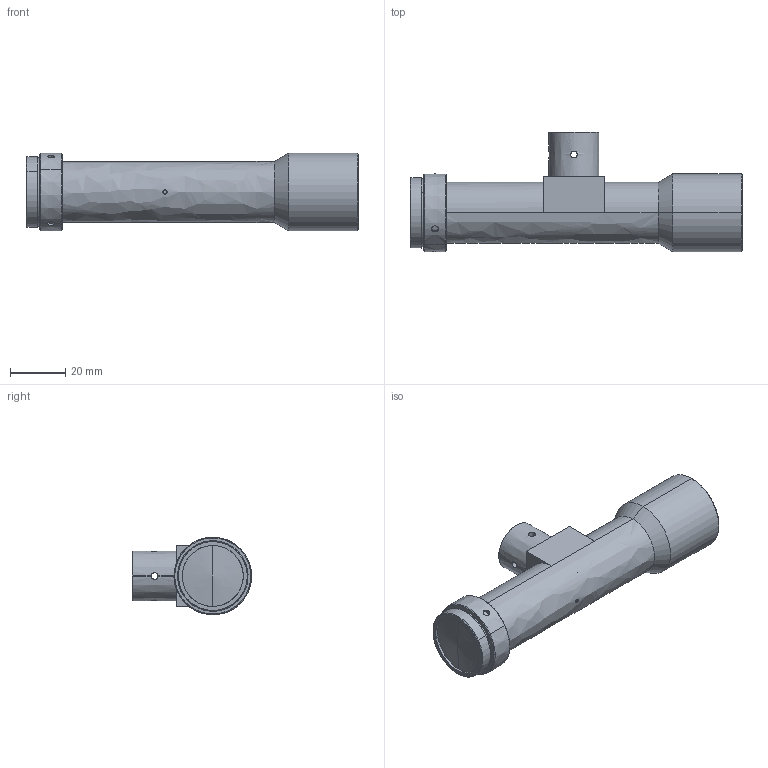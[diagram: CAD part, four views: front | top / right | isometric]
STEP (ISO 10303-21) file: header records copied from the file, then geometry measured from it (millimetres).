
FILE_DESCRIPTION(('Open CASCADE Model'),'2;1');
FILE_NAME('LS-MY-07-145C','2026-10-15T18:58:37',('LumaSpec Vision'),('LumaSpec Vision'),'Open CASCADE STEP processor 7.8','Open CASCADE 7.8' ,'Unknown');
FILE_SCHEMA(('AUTOMOTIVE_DESIGN { 1 0 10303 214 1 1 1 1 }'));
Length unit declared in the file: millimetre
Products named in the file (128): Open CASCADE STEP translator 7.8 53; Open CASCADE STEP translator 7.8 53.1; Open CASCADE STEP translator 7.8 53.2; Open CASCADE STEP translator 7.8 53.3; Open CASCADE STEP translator 7.8 53.4; Open CASCADE STEP translator 7.8 53.5; Open CASCADE STEP translator 7.8 53.6; Open CASCADE STEP translator 7.8 53.7; Open CASCADE STEP translator 7.8 53.8; Open CASCADE STEP translator 7.8 53.9; Open CASCADE STEP translator 7.8 53.10; Open CASCADE STEP translator 7.8 53.11; Open CASCADE STEP translator 7.8 53.12; Open CASCADE STEP translator 7.8 53.13; Open CASCADE STEP translator 7.8 53.14; Open CASCADE STEP translator 7.8 53.15; Open CASCADE STEP translator 7.8 53.16; Open CASCADE STEP translator 7.8 53.17; Open CASCADE STEP translator 7.8 53.18; Open CASCADE STEP translator 7.8 53.19; Open CASCADE STEP translator 7.8 53.20; Open CASCADE STEP translator 7.8 53.21; Open CASCADE STEP translator 7.8 53.22; Open CASCADE STEP translator 7.8 53.23; Open CASCADE STEP translator 7.8 53.24; Open CASCADE STEP translator 7.8 53.25; Open CASCADE STEP translator 7.8 53.26; Open CASCADE STEP translator 7.8 53.27; Open CASCADE STEP translator 7.8 53.28; Open CASCADE STEP translator 7.8 53.29; Open CASCADE STEP translator 7.8 53.30; Open CASCADE STEP translator 7.8 53.31; Open CASCADE STEP translator 7.8 53.32; Open CASCADE STEP translator 7.8 53.33; Open CASCADE STEP translator 7.8 53.34; Open CASCADE STEP translator 7.8 53.35; Open CASCADE STEP translator 7.8 53.36; Open CASCADE STEP translator 7.8 53.37; Open CASCADE STEP translator 7.8 53.38; Open CASCADE STEP translator 7.8 53.39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
Assembly tree (127 placements, depth 2):
  Open CASCADE STEP translator 7.8 53
    Open CASCADE STEP translator 7.8 53.1
    Open CASCADE STEP translator 7.8 53.2
    Open CASCADE STEP translator 7.8 53.3
    Open CASCADE STEP translator 7.8 53.4
    Open CASCADE STEP translator 7.8 53.5
    Open CASCADE STEP translator 7.8 53.6
    Open CASCADE STEP translator 7.8 53.7
    Open CASCADE STEP translator 7.8 53.8
    Open CASCADE STEP translator 7.8 53.9
    Open CASCADE STEP translator 7.8 53.10
    Open CASCADE STEP translator 7.8 53.11
    Open CASCADE STEP translator 7.8 53.12
    Open CASCADE STEP translator 7.8 53.13
    Open CASCADE STEP translator 7.8 53.14
    Open CASCADE STEP translator 7.8 53.15
    Open CASCADE STEP translator 7.8 53.16
    Open CASCADE STEP translator 7.8 53.17
    Open CASCADE STEP translator 7.8 53.18
    Open CASCADE STEP translator 7.8 53.19
    Open CASCADE STEP translator 7.8 53.20
    Open CASCADE STEP translator 7.8 53.21
    Open CASCADE STEP translator 7.8 53.22
    Open CASCADE STEP translator 7.8 53.23
    Open CASCADE STEP translator 7.8 53.24
    Open CASCADE STEP translator 7.8 53.25
    Open CASCADE STEP translator 7.8 53.26
    Open CASCADE STEP translator 7.8 53.27
    Open CASCADE STEP translator 7.8 53.28
    Open CASCADE STEP translator 7.8 53.29
    Open CASCADE STEP translator 7.8 53.30
    Open CASCADE STEP translator 7.8 53.31
    Open CASCADE STEP translator 7.8 53.32
    Open CASCADE STEP translator 7.8 53.33
    Open CASCADE STEP translator 7.8 53.34
    Open CASCADE STEP translator 7.8 53.35
    Open CASCADE STEP translator 7.8 53.36
    Open CASCADE STEP translator 7.8 53.37
    Open CASCADE STEP translator 7.8 53.38
    Open CASCADE STEP translator 7.8 53.39
    Open CASCADE STEP translator 7.8 53.40
    Open CASCADE STEP translator 7.8 53.41
    Open CASCADE STEP translator 7.8 53.42
    Open CASCADE STEP translator 7.8 53.43
    Open CASCADE STEP translator 7.8 53.44
    Open CASCADE STEP translator 7.8 53.45
    Open CASCADE STEP translator 7.8 53.46
    Open CASCADE STEP translator 7.8 53.47
    Open CASCADE STEP translator 7.8 53.48
    Open CASCADE STEP translator 7.8 53.49
    Open CASCADE STEP translator 7.8 53.50
    Open CASCADE STEP translator 7.8 53.51
    Open CASCADE STEP translator 7.8 53.52
    Open CASCADE STEP translator 7.8 53.53
    Open CASCADE STEP translator 7.8 53.54
    Open CASCADE STEP translator 7.8 53.55
    Open CASCADE STEP translator 7.8 53.56
    Open CASCADE STEP translator 7.8 53.57
    Open CASCADE STEP translator 7.8 53.58
    Open CASCADE STEP translator 7.8 53.59
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Bounding box: 119.72 x 43 x 28 mm (x, y, z)
Surface area: 12890.4 mm2 (no closed solid volume)
Topology: 0 solids, 127 shells, 127 faces, 2435 edges, 2431 vertices
Faces by surface type: revolution 100, bspline 27
Entity records: 41759 total; most frequent: CARTESIAN_POINT 18000, B_SPLINE_CURVE_WITH_KNOTS 4515, ORIENTED_EDGE 2431, EDGE_CURVE 2431, VERTEX_POINT 2431, SURFACE_CURVE 2431, PCURVE 2431, DEFINITIONAL_REPRESENTATION 2431
